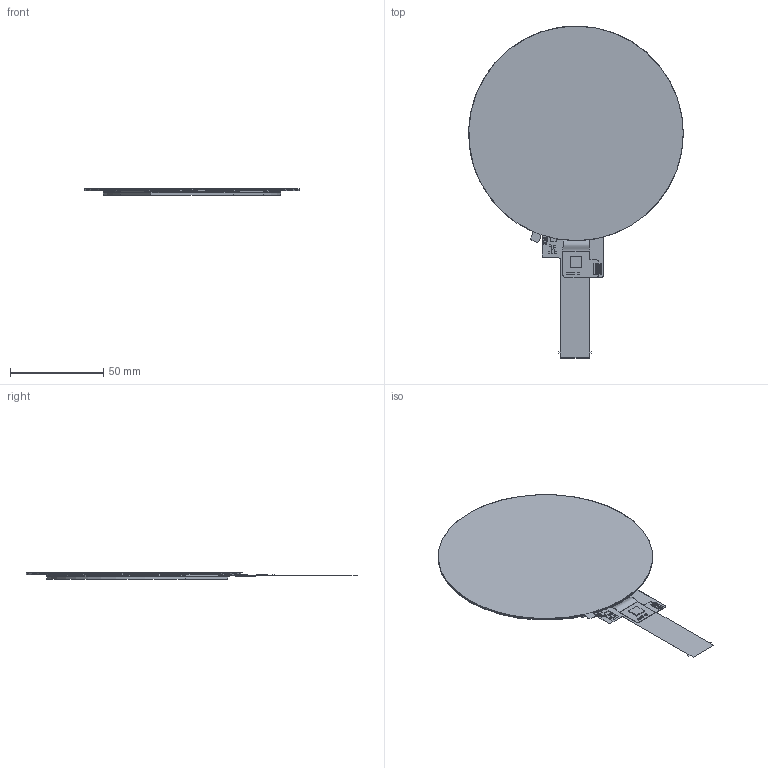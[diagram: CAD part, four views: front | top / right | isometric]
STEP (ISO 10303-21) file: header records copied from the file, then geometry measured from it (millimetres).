
FILE_DESCRIPTION(('FreeCAD Model'),'2;1');
FILE_NAME('Open CASCADE Shape Model','2026-06-29T15:07:43',(''),(''), 'Open CASCADE STEP processor 7.8','FreeCAD','Unknown');
FILE_SCHEMA(('AUTOMOTIVE_DESIGN { 1 0 10303 214 1 1 1 1 }'));
Length unit declared in the file: millimetre
Products named in the file (1): Body
Bounding box: 115 x 177.8 x 3.53 mm (x, y, z)
Volume: 26718.7 mm3; surface area: 64851.4 mm2
Topology: 1 solids, 3 shells, 249 faces, 620 edges, 401 vertices
Faces by surface type: plane 214, cylinder 23, bspline 12
Full cylindrical faces by diameter (mm): 87.6 x2, 114.8 x1, 115 x1
Entity records: 7869 total; most frequent: CARTESIAN_POINT 1930, ORIENTED_EDGE 1240, DIRECTION 1132, EDGE_CURVE 620, LINE 556, VECTOR 556, VERTEX_POINT 401, AXIS2_PLACEMENT_3D 288
